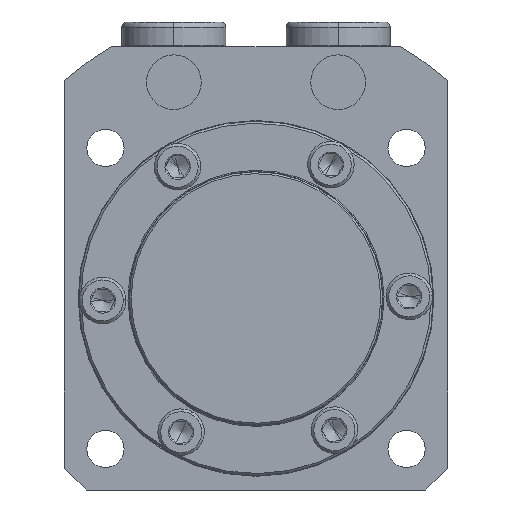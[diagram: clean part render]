
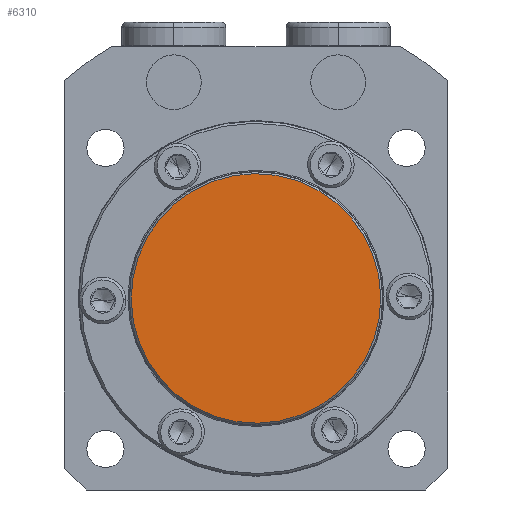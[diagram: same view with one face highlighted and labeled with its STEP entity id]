
A CAD part, front view. The second image highlights one B-rep face of the part: STEP entity #6310.
In plain terms, the highlighted planar face has unit normal (0, -1, 0).
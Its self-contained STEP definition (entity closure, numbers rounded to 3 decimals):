
#159 = EDGE_LOOP ( 'NONE', ( #4061, #4062 ) ) ;
#890 = CARTESIAN_POINT ( 'NONE',  ( 0., -10.5, -22.8 ) ) ;
#893 = CARTESIAN_POINT ( 'NONE',  ( 0., -10.5, 22.8 ) ) ;
#2859 = CIRCLE ( 'NONE', #2864, 22.8 ) ;
#2864 = AXIS2_PLACEMENT_3D ( 'NONE', #5124, #5125, #5126 ) ;
#2955 = CIRCLE ( 'NONE', #2958, 22.8 ) ;
#2958 = AXIS2_PLACEMENT_3D ( 'NONE', #5298, #5299, #5300 ) ;
#3048 = EDGE_CURVE ( 'NONE', #3347, #3350, #2859, .T. ) ;
#3106 = EDGE_CURVE ( 'NONE', #3350, #3347, #2955, .T. ) ;
#3347 = VERTEX_POINT ( 'NONE', #890 ) ;
#3350 = VERTEX_POINT ( 'NONE', #893 ) ;
#4061 = ORIENTED_EDGE ( 'NONE', *, *, #3106, .T. ) ;
#4062 = ORIENTED_EDGE ( 'NONE', *, *, #3048, .T. ) ;
#4964 = AXIS2_PLACEMENT_3D ( 'NONE', #6708, #6736, #6737 ) ;
#5124 = CARTESIAN_POINT ( 'NONE',  ( 0., -10.5, 0. ) ) ;
#5125 = DIRECTION ( 'NONE',  ( 0., -1., 0. ) ) ;
#5126 = DIRECTION ( 'NONE',  ( 0., 0., -1. ) ) ;
#5298 = CARTESIAN_POINT ( 'NONE',  ( 0., -10.5, 0. ) ) ;
#5299 = DIRECTION ( 'NONE',  ( 0., -1., 0. ) ) ;
#5300 = DIRECTION ( 'NONE',  ( 0., 0., -1. ) ) ;
#6310 = ADVANCED_FACE ( 'NONE', ( #6732 ), #6733, .T. ) ;
#6708 = CARTESIAN_POINT ( 'NONE',  ( 0., -10.5, 0. ) ) ;
#6732 = FACE_OUTER_BOUND ( 'NONE', #159, .T. ) ;
#6733 = PLANE ( 'NONE',  #4964 ) ;
#6736 = DIRECTION ( 'NONE',  ( 0., -1., 0. ) ) ;
#6737 = DIRECTION ( 'NONE',  ( 0., 0., -1. ) ) ;
